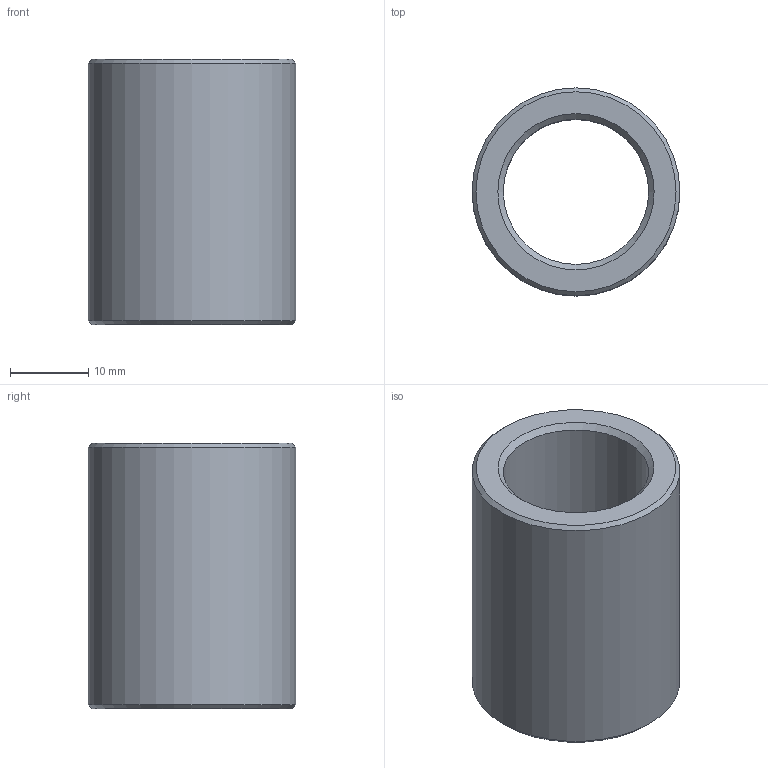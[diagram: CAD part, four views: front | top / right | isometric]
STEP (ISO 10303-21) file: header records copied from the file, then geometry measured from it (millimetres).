
FILE_DESCRIPTION(/* description */ (''),/* implementation_level */ '2;1');
FILE_NAME(/* name */ '524882_01.stp',/* time_stamp */ '2011-01-12T15:02:39+01:00',/* author */ (''),/* organization */ (''),/* preprocessor_version */ 'ST-DEVELOPER v11',/* originating_system */ 'UGS - NX 5.0',/* authorisation */ '');
FILE_SCHEMA (('AP203_CONFIGURATION_CONTROLLED_3D_DESIGN_OF_MECHANICAL_PARTS_AND_ASSEMBLIES_MIM_LF'));
Length unit declared in the file: millimetre
Products named in the file (1): 524882_01
Bounding box: 26.6 x 26.6 x 34 mm (x, y, z)
Volume: 9606 mm3; surface area: 5299.8 mm2
Topology: 1 solids, 1 shells, 8 faces, 14 edges, 8 vertices
Faces by surface type: cone 4, cylinder 2, plane 2
Full cylindrical faces by diameter (mm): 18.6 x1, 26.6 x1
Entity records: 264 total; most frequent: DIRECTION 34, CARTESIAN_POINT 25, AXIS2_PLACEMENT_3D 17, FACE_BOUND 16, EDGE_LOOP 16, ORIENTED_EDGE 16, ADVANCED_FACE 8, VERTEX_POINT 8
